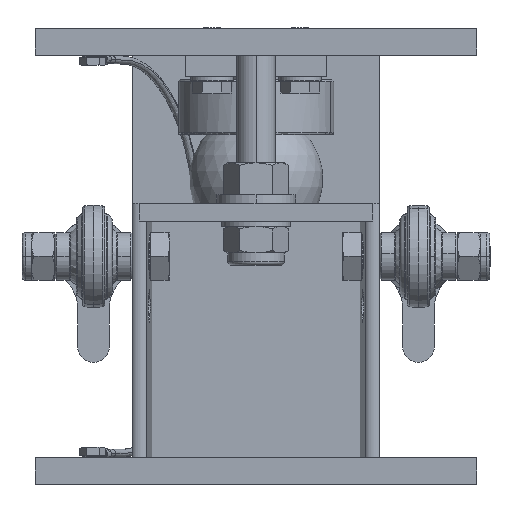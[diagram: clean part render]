
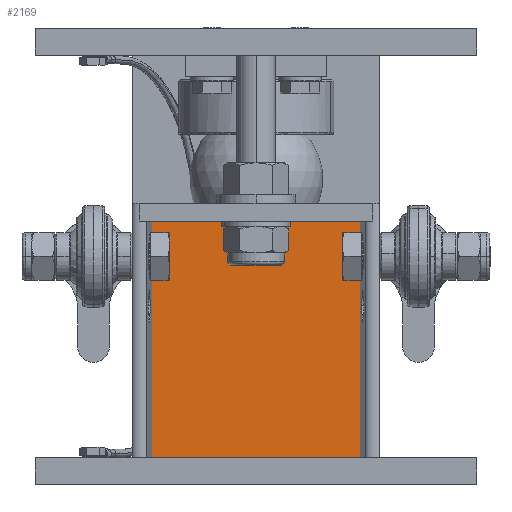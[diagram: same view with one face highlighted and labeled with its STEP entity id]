
A CAD part, left-side view. The second image highlights one B-rep face of the part: STEP entity #2169.
In plain terms, the highlighted planar face has unit normal (-1, 0, 0).
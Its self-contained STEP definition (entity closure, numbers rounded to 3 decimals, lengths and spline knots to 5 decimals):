
#2169=ADVANCED_FACE('46:1841',(#3538),#3539,.T.);
#3538=FACE_OUTER_BOUND('',#6021,.T.);
#3539=PLANE('',#6022);
#6021=EDGE_LOOP('',(#15611,#15612,#15613,#15614));
#6022=AXIS2_PLACEMENT_3D('',#15615,#15616,#15617);
#15611=ORIENTED_EDGE('',*,*,#23940,.F.);
#15612=ORIENTED_EDGE('',*,*,#23926,.F.);
#15613=ORIENTED_EDGE('',*,*,#23941,.F.);
#15614=ORIENTED_EDGE('',*,*,#23920,.T.);
#15615=CARTESIAN_POINT('',(-0.157,0.00152,0.015));
#15616=DIRECTION('',(-1.0,0.,0.));
#15617=DIRECTION('',(0.,-1.0,0.0));
#23920=EDGE_CURVE('46:1892',#26800,#26797,#26801,.T.);
#23926=EDGE_CURVE('46:1901',#26810,#26806,#26812,.F.);
#23940=EDGE_CURVE('51:83',#26806,#26797,#26834,.T.);
#23941=EDGE_CURVE('46:1904',#26800,#26810,#26835,.T.);
#26797=VERTEX_POINT('',#31206);
#26800=VERTEX_POINT('',#31210);
#26801=LINE('',#31211,#31212);
#26806=VERTEX_POINT('',#31219);
#26810=VERTEX_POINT('',#31225);
#26812=LINE('',#31228,#31229);
#26834=LINE('',#31258,#31259);
#26835=LINE('',#31260,#31261);
#31206=CARTESIAN_POINT('',(-0.157,-0.059,0.149));
#31210=CARTESIAN_POINT('',(-0.157,-0.059,0.015));
#31211=CARTESIAN_POINT('',(-0.157,-0.059,0.015));
#31212=VECTOR('',#39169,1.0);
#31219=CARTESIAN_POINT('',(-0.157,0.05904,0.149));
#31225=CARTESIAN_POINT('',(-0.157,0.05904,0.015));
#31228=CARTESIAN_POINT('',(-0.157,0.05904,0.015));
#31229=VECTOR('',#39175,1.0);
#31258=CARTESIAN_POINT('',(-0.157,0.00076,0.149));
#31259=VECTOR('',#39201,1.0);
#31260=CARTESIAN_POINT('',(-0.157,0.00076,0.015));
#31261=VECTOR('',#39202,1.0);
#39169=DIRECTION('',(0.,0.,1.0));
#39175=DIRECTION('',(0.,0.,-1.0));
#39201=DIRECTION('',(0.,-1.0,0.));
#39202=DIRECTION('',(0.,1.0,0.0));
